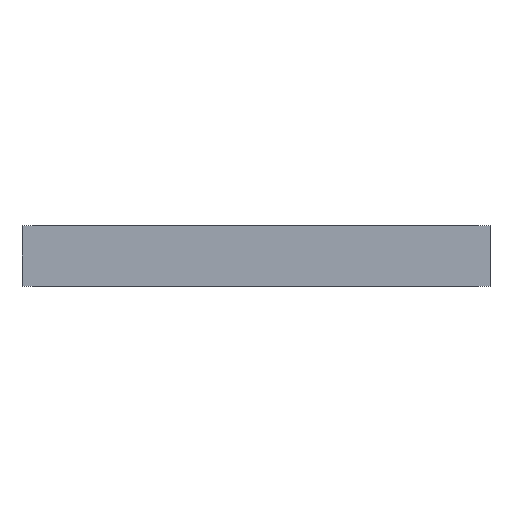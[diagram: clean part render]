
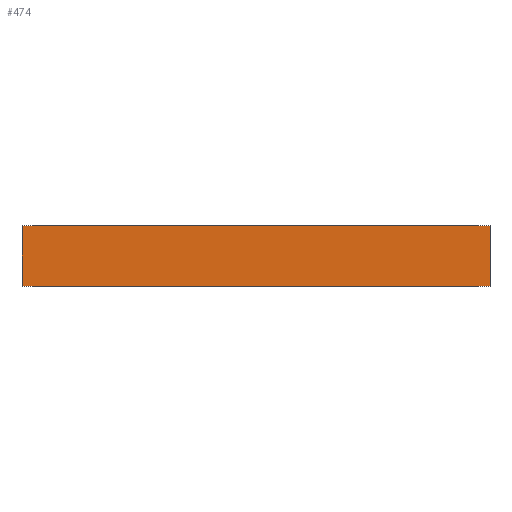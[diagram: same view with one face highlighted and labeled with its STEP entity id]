
A CAD part, front view. The second image highlights one B-rep face of the part: STEP entity #474.
In plain terms, the highlighted planar face has unit normal (0, -1, 0).
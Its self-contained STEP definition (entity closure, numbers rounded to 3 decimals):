
#3 = FACE_OUTER_BOUND ( 'NONE', #329, .T. ) ;
#15 = EDGE_CURVE ( 'NONE', #776, #726, #300, .T. ) ;
#22 = EDGE_CURVE ( 'NONE', #792, #720, #295, .T. ) ;
#67 = AXIS2_PLACEMENT_3D ( 'NONE', #566, #558, #557 ) ;
#90 = EDGE_CURVE ( 'NONE', #720, #726, #202, .T. ) ;
#104 = EDGE_CURVE ( 'NONE', #792, #776, #159, .T. ) ;
#158 = VECTOR ( 'NONE', #667, 1000. ) ;
#159 = LINE ( 'NONE', #668, #158 ) ;
#201 = VECTOR ( 'NONE', #706, 1000. ) ;
#202 = LINE ( 'NONE', #707, #201 ) ;
#290 = VECTOR ( 'NONE', #573, 1000. ) ;
#295 = LINE ( 'NONE', #589, #290 ) ;
#298 = VECTOR ( 'NONE', #620, 1000. ) ;
#300 = LINE ( 'NONE', #625, #298 ) ;
#329 = EDGE_LOOP ( 'NONE', ( #370, #371, #372, #373 ) ) ;
#370 = ORIENTED_EDGE ( 'NONE', *, *, #90, .T. ) ;
#371 = ORIENTED_EDGE ( 'NONE', *, *, #15, .F. ) ;
#372 = ORIENTED_EDGE ( 'NONE', *, *, #104, .F. ) ;
#373 = ORIENTED_EDGE ( 'NONE', *, *, #22, .T. ) ;
#474 = ADVANCED_FACE ( 'NONE', ( #3 ), #571, .F. ) ;
#517 = CARTESIAN_POINT ( 'NONE',  ( -251., 0., 65. ) ) ;
#522 = CARTESIAN_POINT ( 'NONE',  ( 251., 0., 65. ) ) ;
#539 = CARTESIAN_POINT ( 'NONE',  ( 251., 0., 0. ) ) ;
#541 = CARTESIAN_POINT ( 'NONE',  ( -251., 0., 0. ) ) ;
#557 = DIRECTION ( 'NONE',  ( -1., 0., 0. ) ) ;
#558 = DIRECTION ( 'NONE',  ( 0., 1., 0. ) ) ;
#566 = CARTESIAN_POINT ( 'NONE',  ( -251., 0., 65. ) ) ;
#571 = PLANE ( 'NONE',  #67 ) ;
#573 = DIRECTION ( 'NONE',  ( 0., 0., -1. ) ) ;
#589 = CARTESIAN_POINT ( 'NONE',  ( -251., 0., 65. ) ) ;
#620 = DIRECTION ( 'NONE',  ( 0., 0., -1. ) ) ;
#625 = CARTESIAN_POINT ( 'NONE',  ( 251., 0., 65. ) ) ;
#667 = DIRECTION ( 'NONE',  ( 1., 0., 0. ) ) ;
#668 = CARTESIAN_POINT ( 'NONE',  ( -251., 0., 65. ) ) ;
#706 = DIRECTION ( 'NONE',  ( 1., 0., 0. ) ) ;
#707 = CARTESIAN_POINT ( 'NONE',  ( -251., 0., 0. ) ) ;
#720 = VERTEX_POINT ( 'NONE', #541 ) ;
#726 = VERTEX_POINT ( 'NONE', #539 ) ;
#776 = VERTEX_POINT ( 'NONE', #522 ) ;
#792 = VERTEX_POINT ( 'NONE', #517 ) ;
